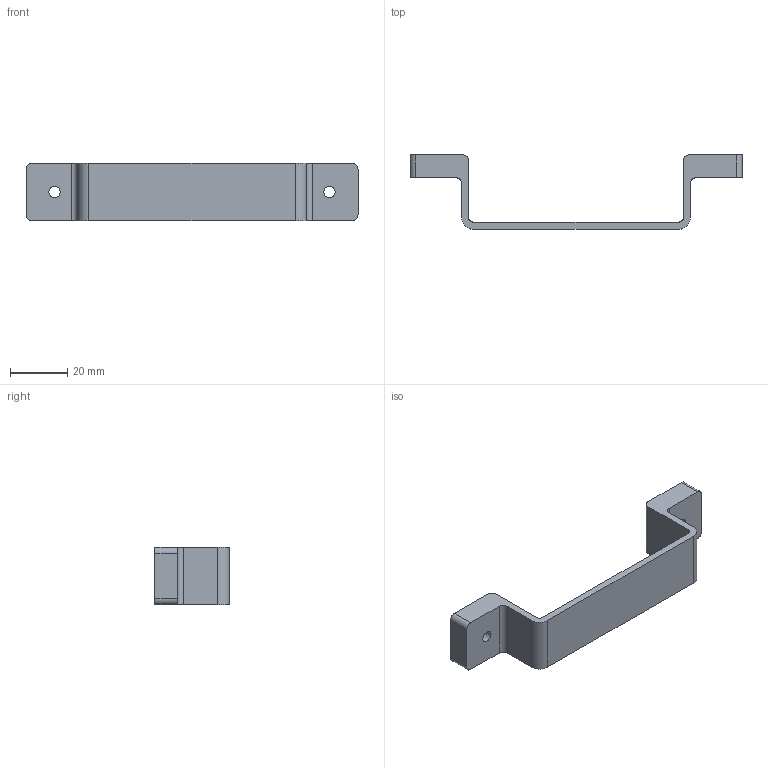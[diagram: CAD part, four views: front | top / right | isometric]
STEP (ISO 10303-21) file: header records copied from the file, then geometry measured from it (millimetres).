
FILE_DESCRIPTION( ( '' ), '1' );
FILE_NAME( 'D:/1.AUTOCAD EXPORT/Group 10/sheet_10_1/9080840.stp', '2013-10-17T04:28:31', ( '' ), ( '' ), ' ', ' ', ' ' );
FILE_SCHEMA( ( 'automotive_design' ) );
Length unit declared in the file: millimetre
Products named in the file (1): 1
Bounding box: 116 x 26 x 20 mm (x, y, z)
Volume: 11763.4 mm3; surface area: 7772.6 mm2
Topology: 1 solids, 1 shells, 30 faces, 84 edges, 56 vertices
Faces by surface type: cylinder 16, plane 14
Entity records: 1952 total; most frequent: DIRECTION 178, STYLED_ITEM 171, PRESENTATION_STYLE_ASSIGNMENT 171, CARTESIAN_POINT 171, COLOUR_RGB 171, ORIENTED_EDGE 168, EDGE_CURVE 84, CURVE_STYLE 84
